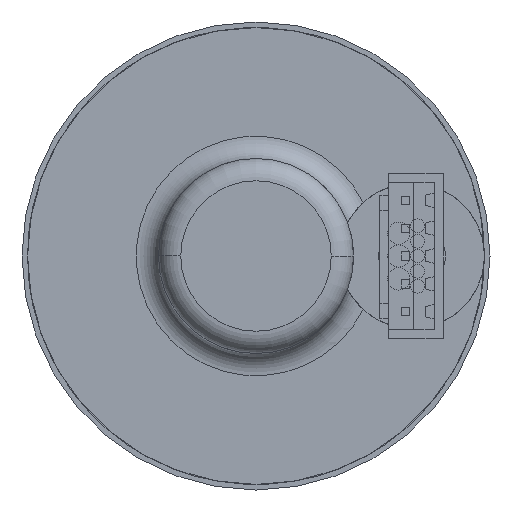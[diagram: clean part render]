
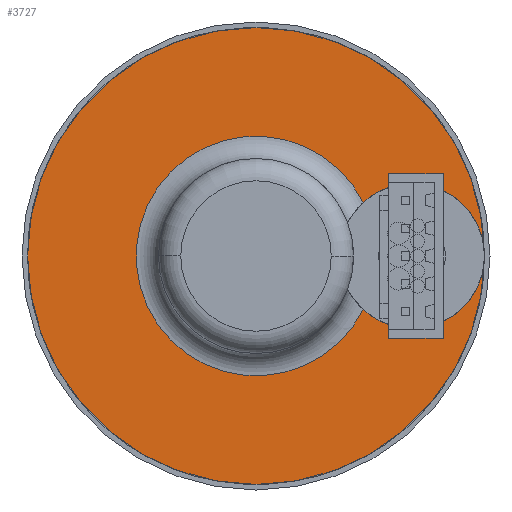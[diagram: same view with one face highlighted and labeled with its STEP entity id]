
A CAD part, front view. The second image highlights one B-rep face of the part: STEP entity #3727.
In plain terms, the highlighted planar face has unit normal (0, -1, 0).
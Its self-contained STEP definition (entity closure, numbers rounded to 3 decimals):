
#1148=CARTESIAN_POINT('',(0.,1.4,0.));
#1149=DIRECTION('',(0.,-1.,0.));
#1150=DIRECTION('',(-1.,0.,0.));
#1151=AXIS2_PLACEMENT_3D('',#1148,#1149,#1150);
#1253=CARTESIAN_POINT('',(0.,1.4,0.));
#1254=DIRECTION('',(0.,1.,0.));
#1255=DIRECTION('',(0.895,0.,-0.447));
#1256=AXIS2_PLACEMENT_3D('',#1253,#1254,#1255);
#1267=CARTESIAN_POINT('',(9.618,1.4,-4.801));
#1274=CARTESIAN_POINT('',(9.618,1.4,4.801));
#1285=CARTESIAN_POINT('',(14.,1.4,0.));
#1286=DIRECTION('',(0.,1.,0.));
#1287=DIRECTION('',(-0.674,0.,0.739));
#1288=AXIS2_PLACEMENT_3D('',#1285,#1286,#1287);
#1290=CARTESIAN_POINT('',(14.,1.4,0.));
#1291=DIRECTION('',(0.,1.,0.));
#1292=DIRECTION('',(1.,0.,0.));
#1293=AXIS2_PLACEMENT_3D('',#1290,#1291,#1292);
#1597=CARTESIAN_POINT('',(0.,1.4,0.));
#1598=DIRECTION('',(0.,1.,0.));
#1599=DIRECTION('',(-1.,0.,0.));
#1600=AXIS2_PLACEMENT_3D('',#1597,#1598,#1599);
#1746=CARTESIAN_POINT('',(-20.5,1.4,0.));
#1747=VERTEX_POINT('',#1746);
#1748=CARTESIAN_POINT('',(20.5,1.4,0.));
#1749=VERTEX_POINT('',#1748);
#1936=VERTEX_POINT('',#1267);
#1937=VERTEX_POINT('',#1274);
#3711=CARTESIAN_POINT('',(0.,1.4,0.));
#3712=DIRECTION('',(0.,-1.,0.));
#3713=DIRECTION('',(-1.,0.,0.));
#3714=AXIS2_PLACEMENT_3D('',#3711,#3712,#3713);
#3715=PLANE('',#3714);
#3717=ORIENTED_EDGE('',*,*,#3716,.F.);
#3719=ORIENTED_EDGE('',*,*,#3718,.F.);
#3720=ORIENTED_EDGE('',*,*,#3701,.F.);
#3722=ORIENTED_EDGE('',*,*,#3721,.T.);
#3724=ORIENTED_EDGE('',*,*,#3723,.F.);
#3725=EDGE_LOOP('',(#3717,#3719,#3720,#3722,#3724));
#3726=FACE_OUTER_BOUND('',#3725,.F.);
#3727=ADVANCED_FACE('',(#3726),#3715,.T.);
#1152=CIRCLE('',#1151,20.5);
#1257=CIRCLE('',#1256,10.75);
#1289=CIRCLE('',#1288,6.5);
#1294=CIRCLE('',#1293,6.5);
#1601=CIRCLE('',#1600,20.5);
#3701=EDGE_CURVE('',#1747,#1749,#1152,.T.);
#3716=EDGE_CURVE('',#1936,#1937,#1257,.T.);
#3718=EDGE_CURVE('',#1749,#1936,#1294,.T.);
#3721=EDGE_CURVE('',#1747,#1749,#1601,.T.);
#3723=EDGE_CURVE('',#1937,#1749,#1289,.T.);
